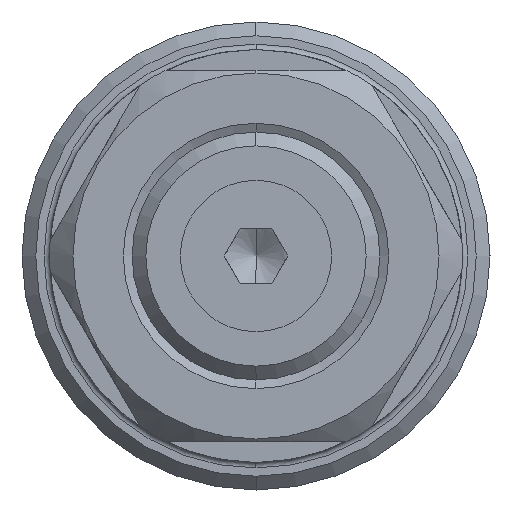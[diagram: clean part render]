
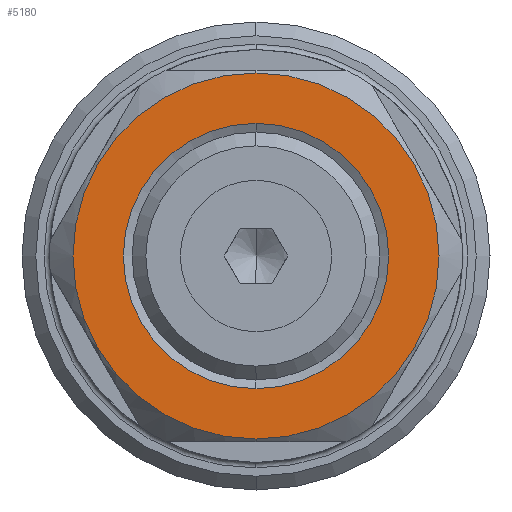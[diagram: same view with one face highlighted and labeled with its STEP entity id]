
A CAD part, left-side view. The second image highlights one B-rep face of the part: STEP entity #5180.
In plain terms, the highlighted planar face has unit normal (-1, 0, 0).
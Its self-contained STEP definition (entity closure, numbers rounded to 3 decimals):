
#381 = CIRCLE ( 'NONE', #14600, 9.636 ) ;
#548 = CARTESIAN_POINT ( 'NONE',  ( -80., 0., 0. ) ) ;
#783 = EDGE_LOOP ( 'NONE', ( #2012, #8230 ) ) ;
#844 = CARTESIAN_POINT ( 'NONE',  ( -80., 0., 9.636 ) ) ;
#1001 = FACE_OUTER_BOUND ( 'NONE', #783, .T. ) ;
#1202 = EDGE_CURVE ( 'NONE', #2410, #16159, #381, .T. ) ;
#1207 = EDGE_CURVE ( 'NONE', #8126, #3048, #9322, .T. ) ;
#1319 = DIRECTION ( 'NONE',  ( 0., 0., 1. ) ) ;
#1334 = DIRECTION ( 'NONE',  ( -1., 0., 0. ) ) ;
#1352 = CARTESIAN_POINT ( 'NONE',  ( -80., 13.3, 0. ) ) ;
#1637 = PLANE ( 'NONE',  #7735 ) ;
#1784 = DIRECTION ( 'NONE',  ( 0., 0., -1. ) ) ;
#2012 = ORIENTED_EDGE ( 'NONE', *, *, #5642, .F. ) ;
#2410 = VERTEX_POINT ( 'NONE', #10515 ) ;
#2687 = CARTESIAN_POINT ( 'NONE',  ( -80., 0., 0. ) ) ;
#3048 = VERTEX_POINT ( 'NONE', #15133 ) ;
#3174 = DIRECTION ( 'NONE',  ( 1., 0., 0. ) ) ;
#4404 = DIRECTION ( 'NONE',  ( 1., 0., 0. ) ) ;
#5180 = ADVANCED_FACE ( 'NONE', ( #9968, #1001 ), #1637, .T. ) ;
#5283 = EDGE_CURVE ( 'NONE', #16159, #2410, #8067, .T. ) ;
#5300 = AXIS2_PLACEMENT_3D ( 'NONE', #2687, #4404, #1784 ) ;
#5642 = EDGE_CURVE ( 'NONE', #3048, #8126, #11661, .T. ) ;
#7270 = AXIS2_PLACEMENT_3D ( 'NONE', #548, #3174, #7396 ) ;
#7396 = DIRECTION ( 'NONE',  ( 0., 0., 1. ) ) ;
#7735 = AXIS2_PLACEMENT_3D ( 'NONE', #1352, #1334, #1319 ) ;
#8067 = CIRCLE ( 'NONE', #7270, 9.636 ) ;
#8084 = ORIENTED_EDGE ( 'NONE', *, *, #1202, .T. ) ;
#8126 = VERTEX_POINT ( 'NONE', #8585 ) ;
#8230 = ORIENTED_EDGE ( 'NONE', *, *, #1207, .F. ) ;
#8585 = CARTESIAN_POINT ( 'NONE',  ( -80., 0., 13.3 ) ) ;
#9322 = CIRCLE ( 'NONE', #14573, 13.3 ) ;
#9968 = FACE_BOUND ( 'NONE', #10929, .T. ) ;
#10515 = CARTESIAN_POINT ( 'NONE',  ( -80., 0., -9.636 ) ) ;
#10920 = CARTESIAN_POINT ( 'NONE',  ( -80., 0., 0. ) ) ;
#10929 = EDGE_LOOP ( 'NONE', ( #14162, #8084 ) ) ;
#11295 = CARTESIAN_POINT ( 'NONE',  ( -80., 0., 0. ) ) ;
#11300 = DIRECTION ( 'NONE',  ( 1., 0., 0. ) ) ;
#11441 = DIRECTION ( 'NONE',  ( 1., 0., 0. ) ) ;
#11579 = DIRECTION ( 'NONE',  ( 0., 0., -1. ) ) ;
#11661 = CIRCLE ( 'NONE', #5300, 13.3 ) ;
#11708 = DIRECTION ( 'NONE',  ( 0., 0., 1. ) ) ;
#14162 = ORIENTED_EDGE ( 'NONE', *, *, #5283, .T. ) ;
#14573 = AXIS2_PLACEMENT_3D ( 'NONE', #10920, #11441, #11579 ) ;
#14600 = AXIS2_PLACEMENT_3D ( 'NONE', #11295, #11300, #11708 ) ;
#15133 = CARTESIAN_POINT ( 'NONE',  ( -80., 0., -13.3 ) ) ;
#16159 = VERTEX_POINT ( 'NONE', #844 ) ;
